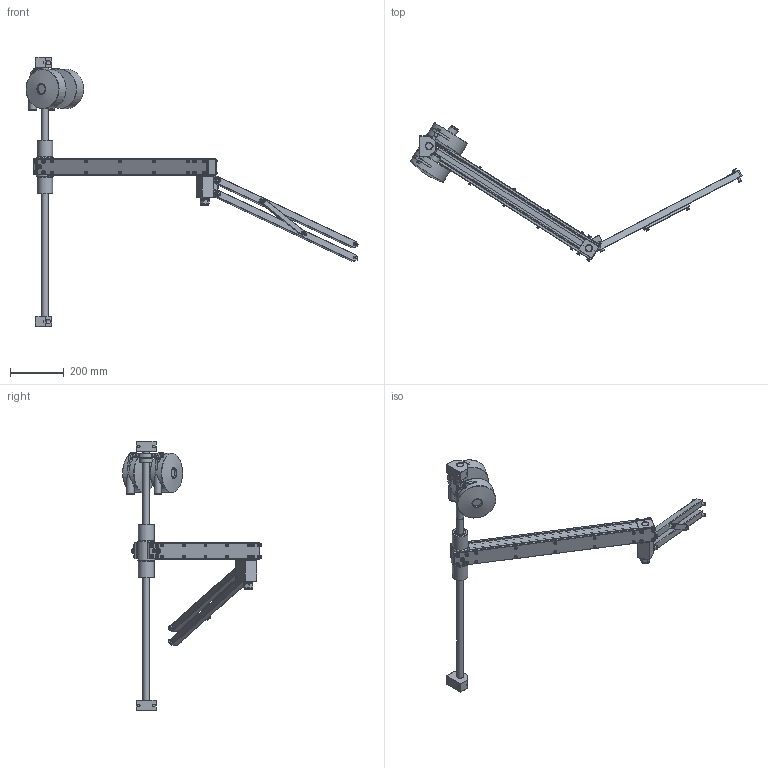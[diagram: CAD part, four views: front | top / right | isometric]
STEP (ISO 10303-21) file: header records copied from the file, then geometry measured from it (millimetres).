
FILE_DESCRIPTION( ( 'Unknown' ), '1' );
FILE_NAME( 'D:/dogabe/Industrie/Assemblage 2014/14-18-3949 PSA/4-1201095_bras BA 180 R_1200/4-1201095_bras BA 180 R_1200.stp', 'Unknown', ( 'Unknown' ), ( 'Unknown' ), 'PSStep 14.0', 'Unknown', ' ' );
FILE_SCHEMA( ( 'AUTOMOTIVE_DESIGN { 1 0 10303 214 1 1 1 1 }' ) );
Length unit declared in the file: millimetre
Products named in the file (82): Asm Mat pour BA180R; PAK25; PAK25-oa1; Axe mat Ø25 x 1000; 14-18-3949_Avant bras BA180 R_1200_ 22.5\X2\00B\X0\; CHC M10x040; CHC M10x040-oa43; CHC M8x25; CHC M8x25-oa44; Roulement à aiguilles NK25-20; Rondelle 25 x 40 x 4; Pivot pantographe BA200 R; Règle immobilisatrice; CHC Epaulé M10-25; CHC Epaulé M10-25-oa45; 14-18-3949_Platine  inférieure avant bras BA180 R_1200; 14-18-3949_platine supérieure avant bras BA180 R_1200; Asm montage mat inversé pour BA180R; C 25-30x20; Entretoise; Entretoise-oa2; CHC M8x50; CHC M8x50-oa3; Entretoise-oa4; Equilibreur 6 - 8Kg; Equilibreur 6 - 8Kg-oa5; Bague butée pour BA200 R; bague support équilibreur pour BA200 R; 14-18-3949_Arrière bras BA180R_1200; Douille KB25; Douille KB25-oa6; CHC M8x30; CHC M8x30-oa7; CHC M8x30-oa8; CHC M8x30-oa9; CHC M8x30-oa10; CHC M8x30-oa11; CHC M8x30-oa12; CHC M8x30-oa13; CHC M8x30-oa14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
Assembly tree (84 placements, depth 3):
  Assem1
    Butée à aiguilles AXK2035
    Rondelle 21 x 35.5 x 3
    Rondelle 21 x 35.5 x 3-oa0
    H M20 Nyl
    Asm Mat pour BA180R
      PAK25
      PAK25-oa1
      Axe mat Ø25 x 1000
    Asm montage mat inversé pour BA180R
      C 25-30x20
      Entretoise
      Entretoise-oa2
      CHC M8x50
      CHC M8x50-oa3
      Entretoise
      Entretoise-oa4
      Equilibreur 6 - 8Kg
      Equilibreur 6 - 8Kg-oa5
      Bague butée pour BA200 R
      bague support équilibreur pour BA200 R
    14-18-3949_Arrière bras BA180R_1200
      Douille KB25
      Douille KB25-oa6
      CHC M8x30
      CHC M8x30-oa7
      CHC M8x30-oa8
      CHC M8x30-oa9
      CHC M8x30-oa10
      CHC M8x30-oa11
      CHC M8x30-oa12
      CHC M8x30-oa13
      CHC M8x30-oa14
      CHC M8x30-oa15
      CHC M8x30-oa16
      CHC M8x30-oa17
      CHC M8x30-oa18
      CHC M8x30-oa19
      CHC M8x30-oa20
      CHC M8x30-oa21
      Axe 25 BA150R pour BA200 R
      14-18-3949_ Fourreau BA180 R renforc\X2\00E\X0\
      14-18-3949_Pivot support pour BA180 R
      CHC M6x20
      CHC M6x20-oa22
      CHC M6x20-oa23
      CHC M6x20-oa24
      CHC M6x20-oa25
      CHC M6x20-oa26
      CHC M6x20-oa27
      CHC M6x20-oa28
      CHC M6x20-oa29
      CHC M6x20-oa30
      CHC M6x20-oa31
      CHC M6x20-oa32
      CHC M6x20-oa33
      CHC M6x20-oa34
      CHC M6x20-oa35
      CHC M6x20-oa36
      CHC M6x20-oa37
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Bounding box: 1234.08 x 515.44 x 1000 mm (x, y, z)
Volume: 5894565.3 mm3; surface area: 1200373.4 mm2
Topology: 80 solids, 80 shells, 1651 faces, 3783 edges, 2445 vertices
Faces by surface type: plane 1005, cylinder 460, cone 119, torus 61, sphere 4, bspline 2
Full cylindrical faces by diameter (mm): 4.2 x1, 5 x1, 5.8 x20, 6 x20, 6.5 x20, 6.647 x13, 6.8 x4, 7.8 x20, 8 x24, 8.2 x16, 8.376 x2, 8.5 x6, 9 x5, 9.8 x2, 10 x28, 10.106 x4, 10.5 x4, 12 x4, 13 x24, 15 x1, 16 x2, 17 x4, 17.5 x1, 18 x2, 20 x2, 21 x2, 25 x9, 26 x1, 28.5 x2, 29.641 x1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
Entity records: 56297 total; most frequent: CARTESIAN_POINT 10172, DIRECTION 6865, ORIENTED_EDGE 5756, EDGE_CURVE 2878, AXIS2_PLACEMENT_3D 2600, EDGE_LOOP 2305, VERTEX_POINT 2053, FACE_OUTER_BOUND 1880
